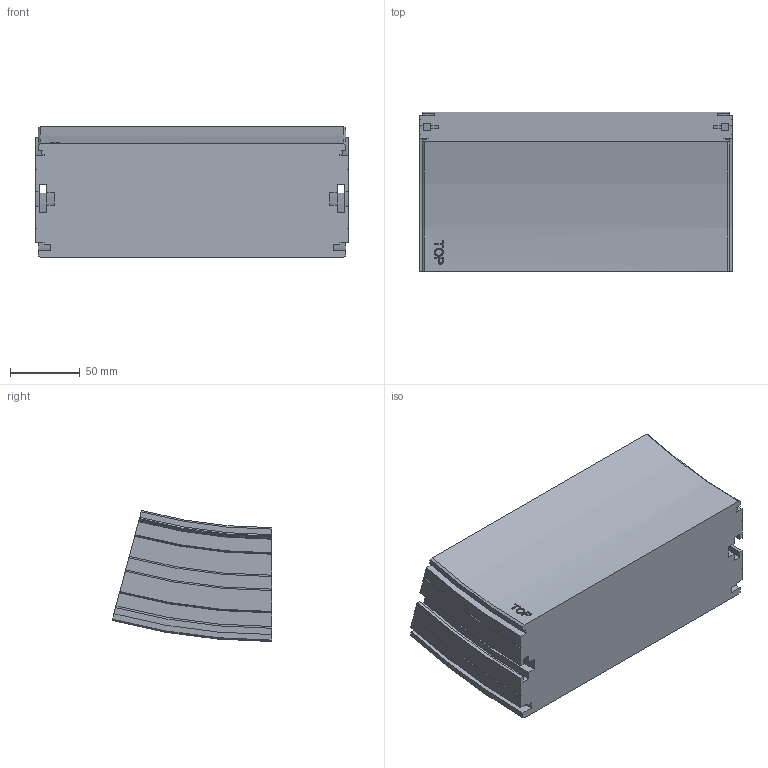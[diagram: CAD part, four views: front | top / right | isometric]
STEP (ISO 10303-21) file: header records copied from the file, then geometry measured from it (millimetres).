
FILE_DESCRIPTION(/* description */ ('VERTIKALKURVA S220 R400'),/* implementation_level */ '2;1');
FILE_NAME(/* name */ '\\carryline.intra\privat\users\mathias\Desktop\Tillfälliga filer\220-5645+220-2000-UPP-01.stp',/* time_stamp */ '2018-11-29T13:34:00+01:00',/* author */ ('MD'),/* organization */ ('CARRYLINE'),/* preprocessor_version */ 'ST-DEVELOPER v17',/* originating_system */ 'Autodesk Inventor 2018',/* authorisation */ '');
FILE_SCHEMA (('AUTOMOTIVE_DESIGN { 1 0 10303 214 3 1 1 }'));
Length unit declared in the file: millimetre
Products named in the file (1): 220-5645+220-2000-UPP-01
Bounding box: 224 x 114.4 x 93.78 mm (x, y, z)
Volume: 1858266.8 mm3; surface area: 114638.1 mm2
Topology: 1 solids, 1 shells, 113 faces, 318 edges, 212 vertices
Faces by surface type: plane 48, cylinder 31, bspline 14, cone 14, torus 6
Entity records: 8361 total; most frequent: CARTESIAN_POINT 5393, ORIENTED_EDGE 636, DIRECTION 576, EDGE_CURVE 318, VERTEX_POINT 212, AXIS2_PLACEMENT_3D 199, LINE 178, VECTOR 178
